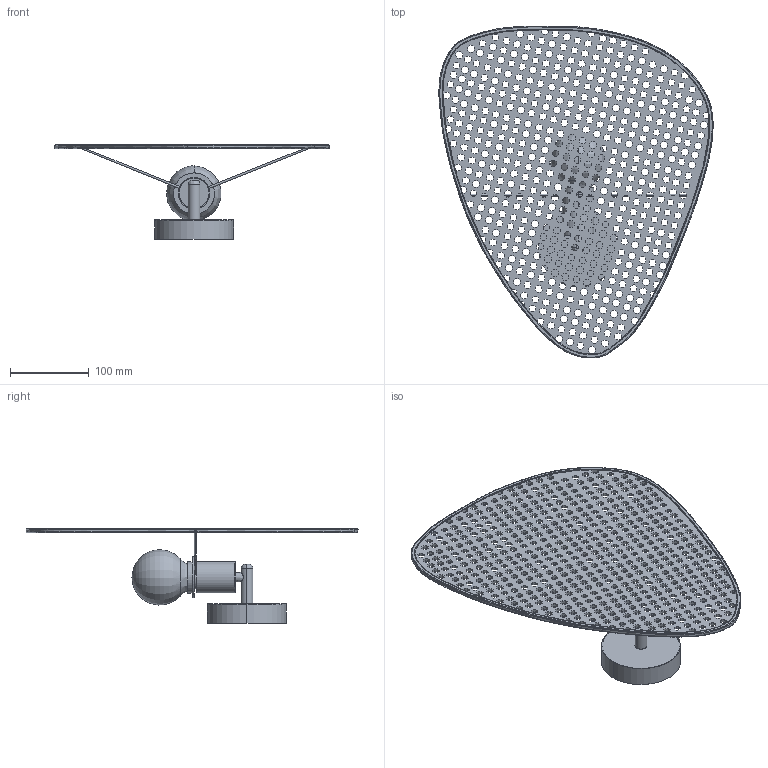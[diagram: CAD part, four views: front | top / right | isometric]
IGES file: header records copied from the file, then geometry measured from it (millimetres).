
Start section: SolidWorks IGES file using analytic representation for surfaces
Global section: file name: F:\燠隴矨\3D\10堎\Screen Cannage Sconce.IGS; native system: SolidWorks 2022; preprocessor: SolidWorks 2022; author: MyPC; date: 231016.112520; units: millimetre
Bounding box: 347.45 x 420.64 x 120.21 mm (x, y, z)
Surface area: 297780.6 mm2 (no closed solid volume)
Topology: 0 solids, 0 shells, 4375 faces, 27590 edges, 27589 vertices
Faces by surface type: bspline 4352, revolution 23
